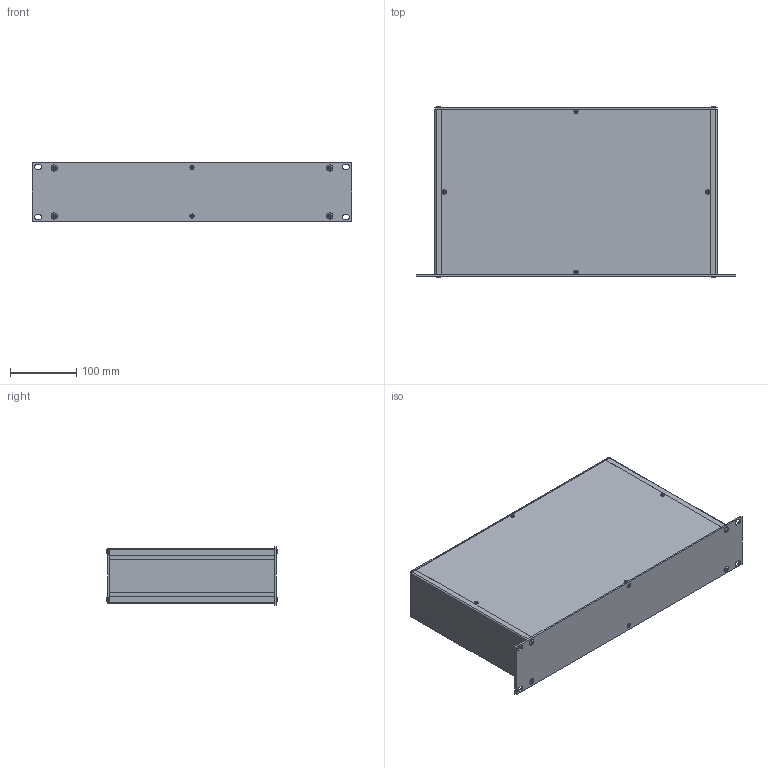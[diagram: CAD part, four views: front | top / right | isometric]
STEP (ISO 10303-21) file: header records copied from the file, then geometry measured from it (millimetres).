
FILE_DESCRIPTION(/* description */ (''),/* implementation_level */ '2;1');
FILE_NAME(/* name */ '//diskstation/Kunden/Gehäuse/Gehäuse/2HE/step/Zoll 2HE Rack Gehäuse Tiefe-250.step',/* time_stamp */ '2022-02-17T15:37:13+01:00',/* author */ (''),/* organization */ (''),/* preprocessor_version */ 'ST-DEVELOPER v18.1',/* originating_system */ 'Autodesk Translation Framework v10.10.0.1391',/* authorisation */ '');
FILE_SCHEMA (('AUTOMOTIVE_DESIGN { 1 0 10303 214 3 1 1 }'));
Length unit declared in the file: millimetre
Products named in the file (28): 2HE Gehäuse mit parametern; Gehäuse; Gehäuseprofil 1 unten links; Gehäuseprofil 2 oben rechts; Gehäuseprofil 1 unten rechts; Gehäuseprofil 2 oben links; Rückplatte; Deckel; Seitenteil links; Seitenteil rechts; Bodenplatte; Montageklotz Front/Deckel; Montageklotz Front/Boden; Montageklotz Rück/Deckel; Montageklotz Rück/Boden; Gewindestreifen; Frontplatte; Schrauben M5; Schraube Front; Schraube Front (1); Schraube Front (2); Schraube Front (3); Schraube Rück (1); Schraube Rück; Schraube Rück (2); Schraube Rück (3); Schrauben M3; HI_Senkschraube DIN 965 A v2 M3x5 24677.030.005(High)
Assembly tree (37 placements, depth 3):
  2HE Gehäuse mit parametern
    Gehäuse
      Gehäuseprofil 1 unten links
      Gehäuseprofil 2 oben rechts
      Gehäuseprofil 1 unten rechts
      Gehäuseprofil 2 oben links
      Rückplatte
      Deckel
      Seitenteil links
      Seitenteil rechts
      Bodenplatte
      Montageklotz Front/Deckel
      Montageklotz Front/Boden
      Montageklotz Rück/Deckel
      Montageklotz Rück/Boden
      Gewindestreifen  x2
    Frontplatte
    Schrauben M5
      Schraube Front
      Schraube Front (1)
      Schraube Front (2)
      Schraube Front (3)
      Schraube Rück (1)
      Schraube Rück
      Schraube Rück (2)
      Schraube Rück (3)
    Schrauben M3
      HI_Senkschraube DIN 965 A v2 M3x5 24677.030.005(High)  x10
Bounding box: 483 x 258.2 x 88.1 mm (x, y, z)
Volume: 832487.7 mm3; surface area: 745059.8 mm2
Topology: 34 solids, 34 shells, 854 faces, 2076 edges, 1290 vertices
Faces by surface type: plane 342, cylinder 332, cone 164, torus 8, bspline 8
Full cylindrical faces by diameter (mm): 2.529 x90, 3 x10, 3.2 x10, 4.234 x40, 5 x8, 5.2 x8, 5.3 x4, 5.6 x10, 9.5 x8
Entity records: 16845 total; most frequent: CARTESIAN_POINT 3078, DIRECTION 2820, ORIENTED_EDGE 2490, EDGE_CURVE 1245, AXIS2_PLACEMENT_3D 1060, VERTEX_POINT 778, EDGE_LOOP 731, LINE 700
